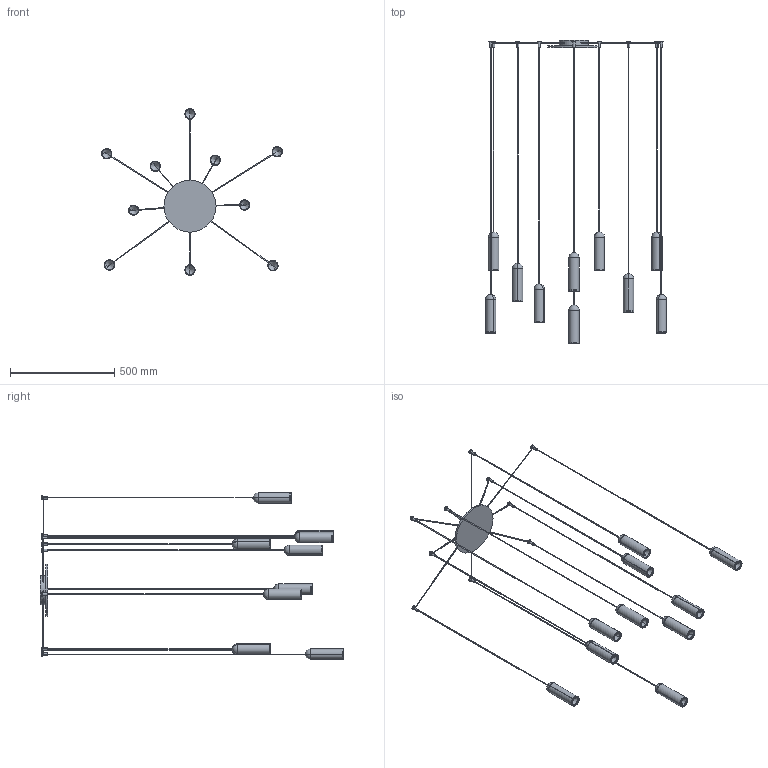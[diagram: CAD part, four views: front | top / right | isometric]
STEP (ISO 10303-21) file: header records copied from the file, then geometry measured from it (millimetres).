
FILE_DESCRIPTION (( 'STEP AP203' ), '1' );
FILE_NAME ('NAN10-00-NANUM_10 sospensione.STEP', '2025-05-05T14:39:20', ( '' ), ( '' ), 'SwSTEP 2.0', 'SolidWorks 2022', '' );
FILE_SCHEMA (( 'CONFIG_CONTROL_DESIGN' ));
Length unit declared in the file: millimetre
Products named in the file (9): NANUM_LAMPADA SINGOLA_H=1800; NANUM_LAMPADA SINGOLA_H=1900; NANUM_LAMPADA SINGOLA_H=1650; Nanum_Rosone_NANUM_10 sospensione (d1800)<A macchina>; NANUM_LAMPADA SINGOLA_H=1750; NANUM_LAMPADA SINGOLA_H=1600; NAN10-00-NANUM_10 sospensione; NANUM_LAMPADA SINGOLA_H=1550; NANUM_LAMPADA SINGOLA_H=1700
Assembly tree (11 placements, depth 2):
  NAN10-00-NANUM_10 sospensione
    Nanum_Rosone_NANUM_10 sospensione (d1800)<A macchina>
    NANUM_LAMPADA SINGOLA_H=1600  x2
    NANUM_LAMPADA SINGOLA_H=1650
    NANUM_LAMPADA SINGOLA_H=1800
    NANUM_LAMPADA SINGOLA_H=1900  x3
    NANUM_LAMPADA SINGOLA_H=1700
    NANUM_LAMPADA SINGOLA_H=1550
    NANUM_LAMPADA SINGOLA_H=1750
Bounding box: 868.47 x 1454.5 x 799 mm (x, y, z)
Volume: 1762087.1 mm3; surface area: 910486.8 mm2
Topology: 31 solids, 31 shells, 394 faces, 848 edges, 477 vertices
Faces by surface type: cylinder 211, plane 83, cone 40, sphere 40, torus 20
Entity records: 8733 total; most frequent: CARTESIAN_POINT 1787, DIRECTION 1388, ORIENTED_EDGE 1096, AXIS2_PLACEMENT_3D 606, EDGE_CURVE 548, VERTEX_POINT 329, EDGE_LOOP 327, ADVANCED_FACE 298
